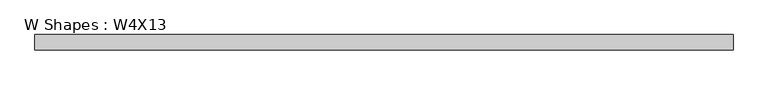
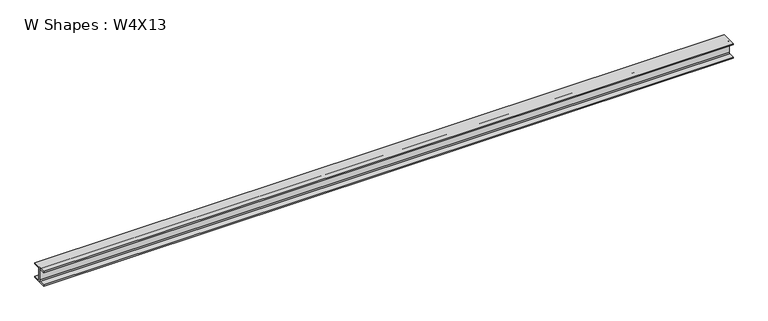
"""IFC4 building model written with IfcOpenShell, lengths in millimetres: beam geometry, W Shapes : W4X13."""

from ifc_helpers import new_model, si_unit, point, frame, frame_2d, origin, place, context, project, spatial, polyline, circle_curve, trimmed, segment, composite_curve, outline, extrude, source, transform, mapped, element, save


def w_shapes_w4x13_63091bc0(model_context):
    return source(origin(), model_context, "Body", "SweptSolid", [
        extrude(outline(composite_curve([segment(polyline([(51.562, -44.069), (51.562, -52.832), (-51.562, -52.832), (-51.562, -44.069), (-9.906, -44.069)]), True, "CONTINUOUS"), segment(trimmed(circle_curve(frame_2d((-9.906, -37.719)), 6.35), [point((-9.906, -44.069))], [point((-3.556, -37.719))], True, "CARTESIAN"), True, "CONTINUOUS"), segment(polyline([(-3.556, -37.719), (-3.556, 37.719)]), True, "CONTINUOUS"), segment(trimmed(circle_curve(frame_2d((-9.906, 37.719)), 6.35), [point((-3.556, 37.719))], [point((-9.906, 44.069))], True, "CARTESIAN"), True, "CONTINUOUS"), segment(polyline([(-9.906, 44.069), (-51.562, 44.069), (-51.562, 52.832), (51.562, 52.832), (51.562, 44.069), (9.906, 44.069)]), True, "CONTINUOUS"), segment(trimmed(circle_curve(frame_2d((9.906, 37.719)), 6.35), [point((9.906, 44.069))], [point((3.556, 37.719))], True, "CARTESIAN"), True, "CONTINUOUS"), segment(polyline([(3.556, 37.719), (3.556, -37.719)]), True, "CONTINUOUS"), segment(trimmed(circle_curve(frame_2d((9.906, -37.719)), 6.35), [point((3.556, -37.719))], [point((9.906, -44.069))], True, "CARTESIAN"), True, "CONTINUOUS"), segment(polyline([(9.906, -44.069), (51.562, -44.069)]), True, "CONTINUOUS")], self_intersect=False)), frame((-2351.532, 0.0, 0.0), z_axis=(1.0, 0.0, 0.0), x_axis=(0.0, 1.0, 0.0)), (0.0, 0.0, 1.0), 4703.064),
    ])


if __name__ == "__main__":
    model = new_model("IFC4")
    model_context = context("Model", 3, world=origin())
    ifc_project = project(units=[si_unit("LENGTHUNIT", "METRE", prefix="MILLI")], contexts=[model_context])
    site = spatial("IfcSite", under=ifc_project)
    building = spatial("IfcBuilding", under=site)
    placement = place(None, origin())
    w_shapes_w4x13_shape = w_shapes_w4x13_63091bc0(model_context)
    element("IfcBeam", 1, ObjectType="W Shapes : W4X13", at=placement, inside=building, context=model_context, shape_type="MappedRepresentation", body=[
        mapped(w_shapes_w4x13_shape, transform((0.0, 0.0, 0.0), x_axis=(1.0, 0.0, 0.0), y_axis=(0.0, 1.0, 0.0), z_axis=(0.0, 0.0, 1.0))),
    ])
    save(model, "model.ifc")
